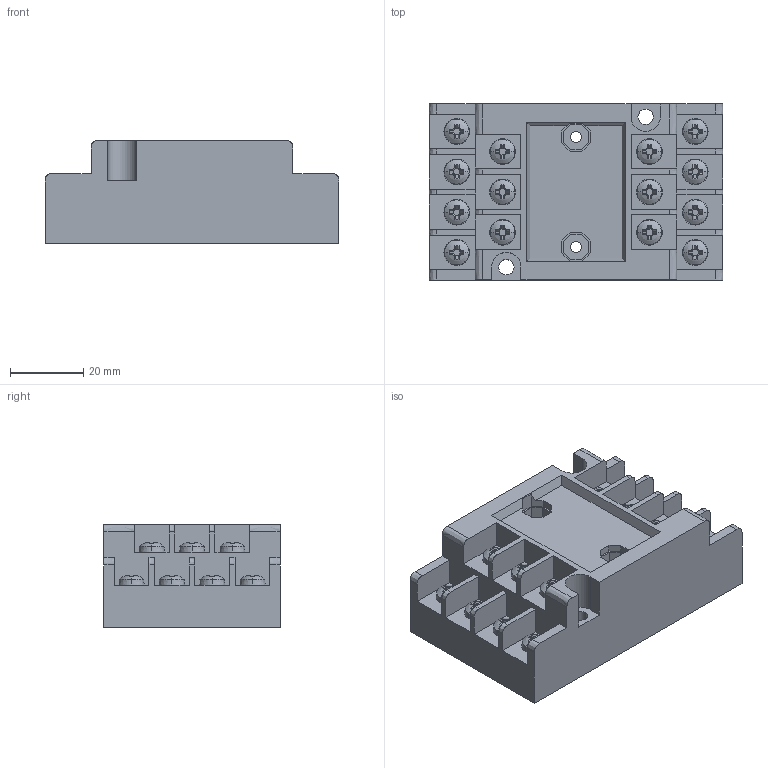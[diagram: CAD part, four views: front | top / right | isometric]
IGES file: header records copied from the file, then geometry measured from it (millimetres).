
Global section: file name: No Iges File Name specified; native system: Autodesk Inventor 2009; preprocessor: AutoDesk Inventor Iges Exporter R2009; author: Niriawan; date: 20080818.093541; units: millimetre
Bounding box: 80 x 48 x 28 mm (x, y, z)
Volume: 79848.5 mm3; surface area: 19754.3 mm2
Topology: 1 solids, 15 shells, 673 faces, 1864 edges, 1210 vertices
Faces by surface type: plane 365, cone 196, bspline 82, sphere 28, revolution 2
